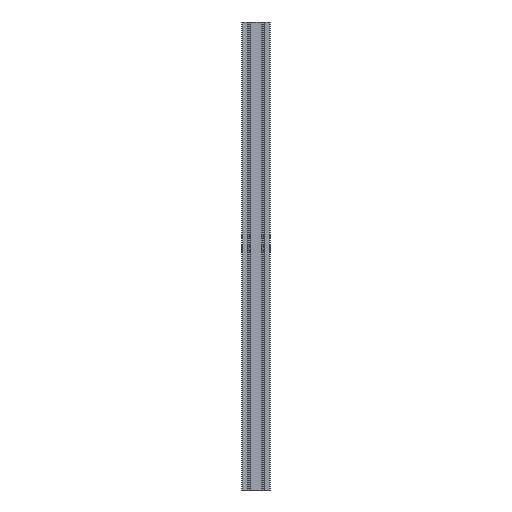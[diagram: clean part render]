
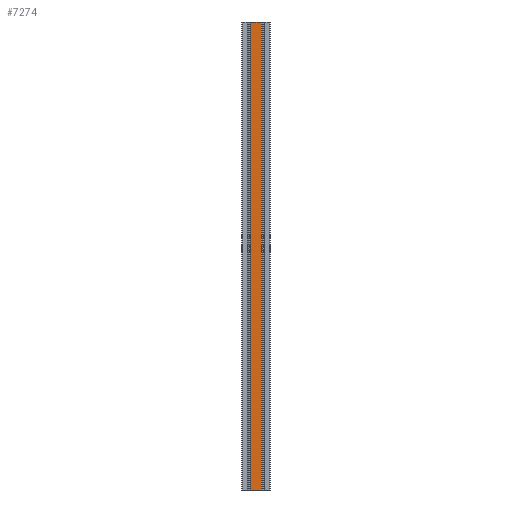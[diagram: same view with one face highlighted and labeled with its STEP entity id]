
A CAD part, front view. The second image highlights one B-rep face of the part: STEP entity #7274.
In plain terms, the highlighted planar face has unit normal (0, -1, 0).
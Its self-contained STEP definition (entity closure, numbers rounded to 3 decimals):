
#7216=CARTESIAN_POINT('',(281.35,155.,1000.0));
#7217=VERTEX_POINT('',#7216);
#7225=CARTESIAN_POINT('',(281.35,155.,0.0));
#7226=VERTEX_POINT('',#7225);
#7227=CARTESIAN_POINT('',(281.35,155.,0.0));
#7228=DIRECTION('',(0.0,0.0,1.0));
#7229=VECTOR('',#7228,1000.0);
#7230=LINE('',#7227,#7229);
#7231=EDGE_CURVE('',#7226,#7217,#7230,.T.);
#7244=CARTESIAN_POINT('',(281.35,155.,0.0));
#7245=DIRECTION('',(0.0,-1.0,0.0));
#7246=DIRECTION('',(0.0,0.0,-1.0));
#7247=AXIS2_PLACEMENT_3D('',#7244,#7245,#7246);
#7248=PLANE('',#7247);
#7249=CARTESIAN_POINT('',(258.65,155.,1000.0));
#7250=VERTEX_POINT('',#7249);
#7251=CARTESIAN_POINT('',(281.35,155.,1000.0));
#7252=DIRECTION('',(-1.0,0.0,0.0));
#7253=VECTOR('',#7252,22.7);
#7254=LINE('',#7251,#7253);
#7255=EDGE_CURVE('',#7217,#7250,#7254,.T.);
#7256=ORIENTED_EDGE('',*,*,#7255,.T.);
#7257=CARTESIAN_POINT('',(258.65,155.,0.0));
#7258=VERTEX_POINT('',#7257);
#7259=CARTESIAN_POINT('',(258.65,155.,0.0));
#7260=DIRECTION('',(0.0,0.0,1.0));
#7261=VECTOR('',#7260,1000.0);
#7262=LINE('',#7259,#7261);
#7263=EDGE_CURVE('',#7258,#7250,#7262,.T.);
#7264=ORIENTED_EDGE('',*,*,#7263,.F.);
#7265=CARTESIAN_POINT('',(281.35,155.,0.0));
#7266=DIRECTION('',(-1.0,0.0,0.0));
#7267=VECTOR('',#7266,22.7);
#7268=LINE('',#7265,#7267);
#7269=EDGE_CURVE('',#7226,#7258,#7268,.T.);
#7270=ORIENTED_EDGE('',*,*,#7269,.F.);
#7271=ORIENTED_EDGE('',*,*,#7231,.T.);
#7272=EDGE_LOOP('',(#7256,#7264,#7270,#7271));
#7273=FACE_OUTER_BOUND('',#7272,.T.);
#7274=ADVANCED_FACE('',(#7273),#7248,.T.);
